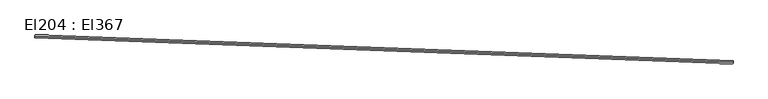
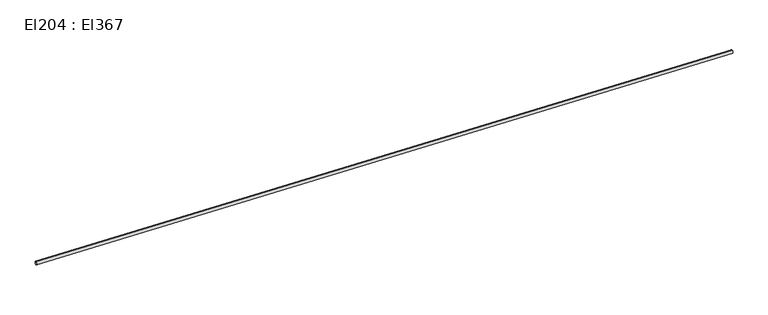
"""IFC4 building model written with IfcOpenShell, lengths in millimetres: cable carrier segment geometry, El204 : El367."""

from ifc_helpers import new_model, si_unit, point, frame, frame_2d, origin, place, context, project, spatial, circle_curve, trimmed, segment, composite_curve, outline, extrude, source, transform, mapped, element, save


def el204_el367_4f62fd23(model_context):
    return source(origin(), model_context, "Body", "SweptSolid", [
        extrude(outline(composite_curve([segment(trimmed(circle_curve(frame_2d((0.0, -9.5)), 9.5), [point((0.0, -19.0))], [point((0.0, 0.0))], False, "CARTESIAN"), True, "CONTINUOUS"), segment(trimmed(circle_curve(frame_2d((0.0, -9.5)), 9.5), [point((0.0, 0.0))], [point((0.0, -19.0))], False, "CARTESIAN"), True, "CONTINUOUS")], self_intersect=False)), frame((14253.9716422, -655.4420539, 1509.5), z_axis=(-0.9993226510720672, 0.03679998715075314, 0.0), x_axis=(-0.03679998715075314, -0.9993226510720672, 0.0)), (0.0, 0.0, 1.0), 4330.13),
    ])


if __name__ == "__main__":
    model = new_model("IFC4")
    model_context = context("Model", 3, world=origin())
    ifc_project = project(units=[si_unit("LENGTHUNIT", "METRE", prefix="MILLI")], contexts=[model_context])
    site = spatial("IfcSite", under=ifc_project)
    building = spatial("IfcBuilding", under=site)
    placement = place(None, origin())
    el204_el367_shape = el204_el367_4f62fd23(model_context)
    element("IfcCableCarrierSegment", 1, ObjectType="El204 : El367", at=placement, inside=building, context=model_context, shape_type="MappedRepresentation", body=[
        mapped(el204_el367_shape, transform((0.0, 0.0, 0.0), x_axis=(1.0, 0.0, 0.0), y_axis=(0.0, 1.0, 0.0), z_axis=(0.0, 0.0, 1.0))),
    ])
    save(model, "model.ifc")
